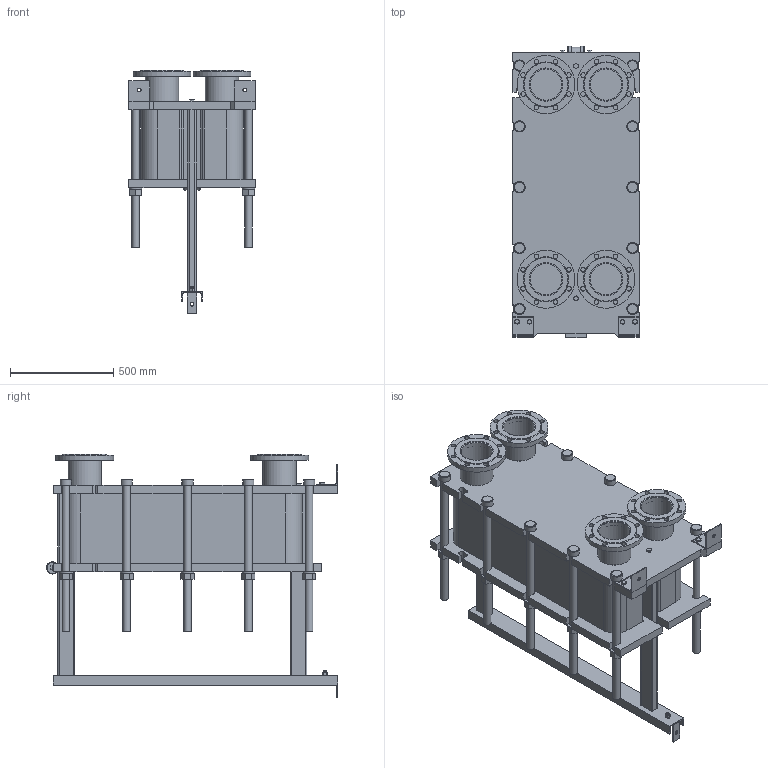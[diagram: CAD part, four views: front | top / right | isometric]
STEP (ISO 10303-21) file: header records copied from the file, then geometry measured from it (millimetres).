
FILE_DESCRIPTION(/* description */ (''),/* implementation_level */ '2;1');
FILE_NAME(/* name */ 'C:\Users\zhuro\Desktop\ENCO\TO\ЭН-041\ЭН-0,5-041-98-1.stp',/* time_stamp */ '2022-06-06T10:57:55+03:00',/* author */ ('zhuro'),/* organization */ (''),/* preprocessor_version */ 'ST-DEVELOPER v18.1',/* originating_system */ 'Autodesk Inventor 2022',/* authorisation */ '');
FILE_SCHEMA (('AUTOMOTIVE_DESIGN { 1 0 10303 214 3 1 1 }'));
Length unit declared in the file: millimetre
Products named in the file (1): ЭН-0,5-041-98-1
Bounding box: 610 x 1406.5 x 1175 mm (x, y, z)
Volume: 270492650.7 mm3; surface area: 8980412.8 mm2
Topology: 52 solids, 52 shells, 711 faces, 1696 edges, 1094 vertices
Faces by surface type: plane 487, cylinder 177, cone 41, torus 6
Full cylindrical faces by diameter (mm): 8 x4, 10 x2, 16 x8, 18 x3, 22 x32, 36 x24, 50 x1, 54 x10, 60 x12, 151 x4, 161 x8, 280 x4
Entity records: 22667 total; most frequent: CARTESIAN_POINT 5230, DIRECTION 3644, ORIENTED_EDGE 3392, EDGE_CURVE 1696, AXIS2_PLACEMENT_3D 1272, LINE 1100, VECTOR 1100, VERTEX_POINT 1094
